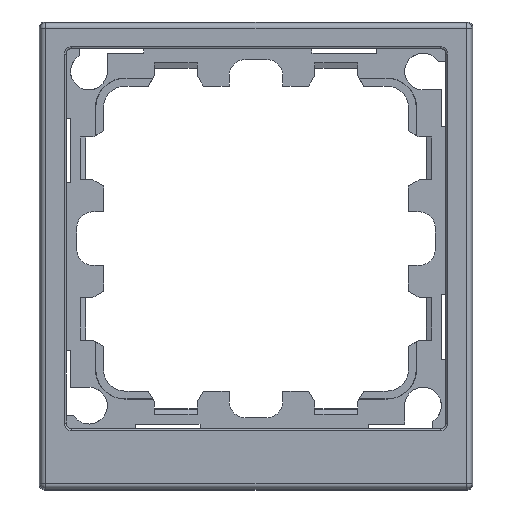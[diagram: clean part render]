
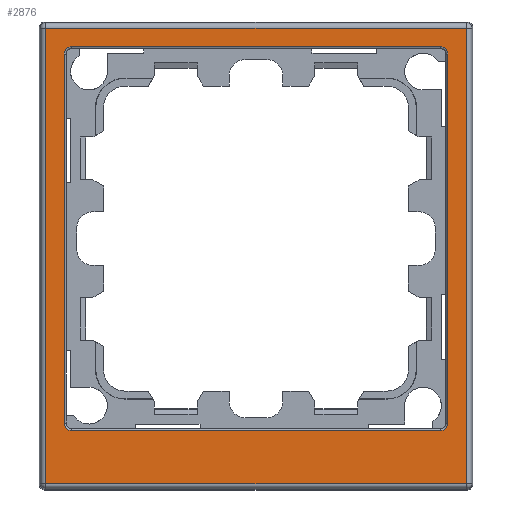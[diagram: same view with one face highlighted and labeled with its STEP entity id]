
A CAD part, front view. The second image highlights one B-rep face of the part: STEP entity #2876.
In plain terms, the highlighted planar face has unit normal (0, -1, 0).
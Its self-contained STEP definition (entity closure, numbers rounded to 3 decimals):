
#75 = DIRECTION ( 'NONE',  ( 0., 0., -1. ) ) ;
#119 = VECTOR ( 'NONE', #3205, 1000. ) ;
#202 = CARTESIAN_POINT ( 'NONE',  ( 34.5, -6.3, 35.87 ) ) ;
#256 = LINE ( 'NONE', #6846, #6459 ) ;
#287 = DIRECTION ( 'NONE',  ( 0., 0., 1. ) ) ;
#316 = CARTESIAN_POINT ( 'NONE',  ( 39.335, -6.3, -45.835 ) ) ;
#340 = VERTEX_POINT ( 'NONE', #4263 ) ;
#473 = CARTESIAN_POINT ( 'NONE',  ( -39., -6.3, -35.87 ) ) ;
#474 = ORIENTED_EDGE ( 'NONE', *, *, #4140, .T. ) ;
#547 = EDGE_CURVE ( 'NONE', #2695, #340, #6350, .T. ) ;
#561 = CIRCLE ( 'NONE', #2390, 1.37 ) ;
#1024 = VERTEX_POINT ( 'NONE', #6341 ) ;
#1060 = DIRECTION ( 'NONE',  ( 0., 0., -1. ) ) ;
#1136 = EDGE_CURVE ( 'NONE', #6249, #4943, #2173, .T. ) ;
#1138 = EDGE_CURVE ( 'NONE', #2647, #1320, #2702, .T. ) ;
#1260 = EDGE_CURVE ( 'NONE', #340, #2647, #2698, .T. ) ;
#1291 = AXIS2_PLACEMENT_3D ( 'NONE', #3103, #7089, #75 ) ;
#1320 = VERTEX_POINT ( 'NONE', #3544 ) ;
#1326 = DIRECTION ( 'NONE',  ( 0., -1., 0. ) ) ;
#1431 = CARTESIAN_POINT ( 'NONE',  ( -39., -6.3, -45.835 ) ) ;
#1482 = CARTESIAN_POINT ( 'NONE',  ( -35.87, -6.3, -46. ) ) ;
#1558 = CARTESIAN_POINT ( 'NONE',  ( -39., -6.3, 35.87 ) ) ;
#1574 = EDGE_CURVE ( 'NONE', #2465, #7056, #2044, .T. ) ;
#1608 = ORIENTED_EDGE ( 'NONE', *, *, #1138, .T. ) ;
#1803 = CARTESIAN_POINT ( 'NONE',  ( -39., -6.3, 39.335 ) ) ;
#2044 = LINE ( 'NONE', #1431, #3314 ) ;
#2151 = VECTOR ( 'NONE', #2238, 1000. ) ;
#2172 = CARTESIAN_POINT ( 'NONE',  ( -39.335, -6.3, -46. ) ) ;
#2173 = LINE ( 'NONE', #1558, #119 ) ;
#2238 = DIRECTION ( 'NONE',  ( 0., 0., -1. ) ) ;
#2246 = DIRECTION ( 'NONE',  ( 0., 0., -1. ) ) ;
#2390 = AXIS2_PLACEMENT_3D ( 'NONE', #6469, #5358, #2995 ) ;
#2444 = DIRECTION ( 'NONE',  ( 0., 0., -1. ) ) ;
#2465 = VERTEX_POINT ( 'NONE', #6912 ) ;
#2521 = EDGE_LOOP ( 'NONE', ( #5212, #4848, #474, #7167 ) ) ;
#2522 = LINE ( 'NONE', #1803, #5936 ) ;
#2579 = CARTESIAN_POINT ( 'NONE',  ( 35.87, -6.3, -34.5 ) ) ;
#2647 = VERTEX_POINT ( 'NONE', #7215 ) ;
#2686 = ORIENTED_EDGE ( 'NONE', *, *, #5095, .T. ) ;
#2694 = CARTESIAN_POINT ( 'NONE',  ( 34.5, -6.3, -35.87 ) ) ;
#2695 = VERTEX_POINT ( 'NONE', #2694 ) ;
#2698 = CIRCLE ( 'NONE', #5662, 1.37 ) ;
#2702 = LINE ( 'NONE', #1482, #6019 ) ;
#2801 = DIRECTION ( 'NONE',  ( -1., 0., 0. ) ) ;
#2837 = EDGE_CURVE ( 'NONE', #3362, #1024, #2522, .T. ) ;
#2876 = ADVANCED_FACE ( 'NONE', ( #4176, #6605 ), #5957, .T. ) ;
#2900 = ORIENTED_EDGE ( 'NONE', *, *, #547, .T. ) ;
#2977 = AXIS2_PLACEMENT_3D ( 'NONE', #3059, #1326, #2444 ) ;
#2995 = DIRECTION ( 'NONE',  ( 0., 0., -1. ) ) ;
#3059 = CARTESIAN_POINT ( 'NONE',  ( -39., -6.3, -46. ) ) ;
#3103 = CARTESIAN_POINT ( 'NONE',  ( -34.5, -6.3, 34.5 ) ) ;
#3205 = DIRECTION ( 'NONE',  ( 1., 0., 0. ) ) ;
#3236 = AXIS2_PLACEMENT_3D ( 'NONE', #3540, #5287, #3579 ) ;
#3314 = VECTOR ( 'NONE', #4384, 1000. ) ;
#3339 = CARTESIAN_POINT ( 'NONE',  ( 35.87, -6.3, 34.5 ) ) ;
#3362 = VERTEX_POINT ( 'NONE', #4347 ) ;
#3540 = CARTESIAN_POINT ( 'NONE',  ( 34.5, -6.3, 34.5 ) ) ;
#3544 = CARTESIAN_POINT ( 'NONE',  ( -35.87, -6.3, 34.5 ) ) ;
#3579 = DIRECTION ( 'NONE',  ( 0., 0., -1. ) ) ;
#3669 = VECTOR ( 'NONE', #2246, 1000. ) ;
#3790 = VERTEX_POINT ( 'NONE', #3339 ) ;
#3899 = ORIENTED_EDGE ( 'NONE', *, *, #1136, .T. ) ;
#4140 = EDGE_CURVE ( 'NONE', #7056, #3362, #256, .T. ) ;
#4176 = FACE_OUTER_BOUND ( 'NONE', #2521, .T. ) ;
#4263 = CARTESIAN_POINT ( 'NONE',  ( -34.5, -6.3, -35.87 ) ) ;
#4347 = CARTESIAN_POINT ( 'NONE',  ( 39.335, -6.3, 39.335 ) ) ;
#4384 = DIRECTION ( 'NONE',  ( 1., 0., 0. ) ) ;
#4443 = DIRECTION ( 'NONE',  ( 0., 0., 1. ) ) ;
#4510 = LINE ( 'NONE', #2172, #3669 ) ;
#4581 = LINE ( 'NONE', #4620, #2151 ) ;
#4608 = CIRCLE ( 'NONE', #1291, 1.37 ) ;
#4620 = CARTESIAN_POINT ( 'NONE',  ( 35.87, -6.3, -46. ) ) ;
#4830 = EDGE_CURVE ( 'NONE', #4943, #3790, #7304, .T. ) ;
#4848 = ORIENTED_EDGE ( 'NONE', *, *, #1574, .T. ) ;
#4943 = VERTEX_POINT ( 'NONE', #202 ) ;
#5095 = EDGE_CURVE ( 'NONE', #3790, #7047, #4581, .T. ) ;
#5109 = ORIENTED_EDGE ( 'NONE', *, *, #5703, .T. ) ;
#5212 = ORIENTED_EDGE ( 'NONE', *, *, #6733, .T. ) ;
#5266 = EDGE_CURVE ( 'NONE', #7047, #2695, #561, .T. ) ;
#5287 = DIRECTION ( 'NONE',  ( 0., 1., 0. ) ) ;
#5358 = DIRECTION ( 'NONE',  ( 0., 1., 0. ) ) ;
#5441 = EDGE_LOOP ( 'NONE', ( #3899, #6400, #2686, #6106, #2900, #6007, #1608, #5109 ) ) ;
#5662 = AXIS2_PLACEMENT_3D ( 'NONE', #6438, #7486, #1060 ) ;
#5703 = EDGE_CURVE ( 'NONE', #1320, #6249, #4608, .T. ) ;
#5936 = VECTOR ( 'NONE', #6030, 1000. ) ;
#5957 = PLANE ( 'NONE',  #2977 ) ;
#6007 = ORIENTED_EDGE ( 'NONE', *, *, #1260, .T. ) ;
#6019 = VECTOR ( 'NONE', #287, 1000. ) ;
#6030 = DIRECTION ( 'NONE',  ( -1., 0., 0. ) ) ;
#6106 = ORIENTED_EDGE ( 'NONE', *, *, #5266, .T. ) ;
#6140 = VECTOR ( 'NONE', #2801, 1000. ) ;
#6249 = VERTEX_POINT ( 'NONE', #7302 ) ;
#6341 = CARTESIAN_POINT ( 'NONE',  ( -39.335, -6.3, 39.335 ) ) ;
#6350 = LINE ( 'NONE', #473, #6140 ) ;
#6400 = ORIENTED_EDGE ( 'NONE', *, *, #4830, .T. ) ;
#6438 = CARTESIAN_POINT ( 'NONE',  ( -34.5, -6.3, -34.5 ) ) ;
#6459 = VECTOR ( 'NONE', #4443, 1000. ) ;
#6469 = CARTESIAN_POINT ( 'NONE',  ( 34.5, -6.3, -34.5 ) ) ;
#6605 = FACE_BOUND ( 'NONE', #5441, .T. ) ;
#6733 = EDGE_CURVE ( 'NONE', #1024, #2465, #4510, .T. ) ;
#6846 = CARTESIAN_POINT ( 'NONE',  ( 39.335, -6.3, -46. ) ) ;
#6912 = CARTESIAN_POINT ( 'NONE',  ( -39.335, -6.3, -45.835 ) ) ;
#7047 = VERTEX_POINT ( 'NONE', #2579 ) ;
#7056 = VERTEX_POINT ( 'NONE', #316 ) ;
#7089 = DIRECTION ( 'NONE',  ( 0., 1., 0. ) ) ;
#7167 = ORIENTED_EDGE ( 'NONE', *, *, #2837, .T. ) ;
#7215 = CARTESIAN_POINT ( 'NONE',  ( -35.87, -6.3, -34.5 ) ) ;
#7302 = CARTESIAN_POINT ( 'NONE',  ( -34.5, -6.3, 35.87 ) ) ;
#7304 = CIRCLE ( 'NONE', #3236, 1.37 ) ;
#7486 = DIRECTION ( 'NONE',  ( 0., 1., 0. ) ) ;
